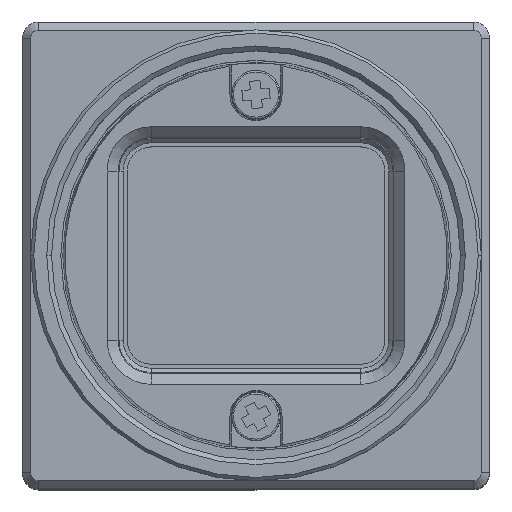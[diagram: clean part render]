
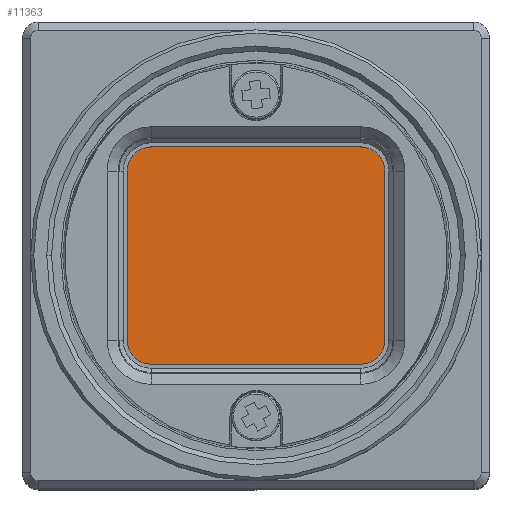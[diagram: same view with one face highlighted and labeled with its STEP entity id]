
A CAD part, top view. The second image highlights one B-rep face of the part: STEP entity #11363.
In plain terms, the highlighted planar face has unit normal (0, 0, 1).
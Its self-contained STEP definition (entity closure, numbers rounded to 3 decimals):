
#142 = AXIS2_PLACEMENT_3D ( 'NONE', #2905, #9574, #3870 ) ;
#229 = ORIENTED_EDGE ( 'NONE', *, *, #649, .T. ) ;
#414 = CIRCLE ( 'NONE', #2385, 1.5 ) ;
#426 = VERTEX_POINT ( 'NONE', #1781 ) ;
#649 = EDGE_CURVE ( 'NONE', #10071, #5170, #5285, .T. ) ;
#699 = CARTESIAN_POINT ( 'NONE',  ( 6.5, 5.25, 23.7 ) ) ;
#731 = CARTESIAN_POINT ( 'NONE',  ( 6.5, -6.75, 23.7 ) ) ;
#783 = CARTESIAN_POINT ( 'NONE',  ( 6.5, -5.25, 23.7 ) ) ;
#833 = DIRECTION ( 'NONE',  ( -1., 0., 0. ) ) ;
#875 = ORIENTED_EDGE ( 'NONE', *, *, #11059, .T. ) ;
#1062 = CARTESIAN_POINT ( 'NONE',  ( -6.5, -6.75, 23.7 ) ) ;
#1223 = ORIENTED_EDGE ( 'NONE', *, *, #5189, .T. ) ;
#1744 = DIRECTION ( 'NONE',  ( 1., 0., 0. ) ) ;
#1781 = CARTESIAN_POINT ( 'NONE',  ( 8., -5.25, 23.7 ) ) ;
#1994 = EDGE_CURVE ( 'NONE', #7260, #6638, #7615, .T. ) ;
#2385 = AXIS2_PLACEMENT_3D ( 'NONE', #783, #7459, #1744 ) ;
#2611 = DIRECTION ( 'NONE',  ( 1., 0., 0. ) ) ;
#2688 = DIRECTION ( 'NONE',  ( 0., 0., 1. ) ) ;
#2701 = AXIS2_PLACEMENT_3D ( 'NONE', #10628, #4922, #11602 ) ;
#2905 = CARTESIAN_POINT ( 'NONE',  ( -6.5, 5.25, 23.7 ) ) ;
#3057 = VERTEX_POINT ( 'NONE', #10856 ) ;
#3063 = CARTESIAN_POINT ( 'NONE',  ( -8., -5.25, 23.7 ) ) ;
#3719 = VECTOR ( 'NONE', #833, 1000. ) ;
#3870 = DIRECTION ( 'NONE',  ( 1., 0., 0. ) ) ;
#4049 = CARTESIAN_POINT ( 'NONE',  ( -6.5, 5.25, 23.7 ) ) ;
#4201 = CARTESIAN_POINT ( 'NONE',  ( -8., -5.25, 23.7 ) ) ;
#4919 = DIRECTION ( 'NONE',  ( 1., 0., 0. ) ) ;
#4922 = DIRECTION ( 'NONE',  ( 0., 0., 1. ) ) ;
#5020 = DIRECTION ( 'NONE',  ( 1., 0., 0. ) ) ;
#5116 = EDGE_CURVE ( 'NONE', #3057, #8183, #8463, .T. ) ;
#5170 = VERTEX_POINT ( 'NONE', #7701 ) ;
#5180 = DIRECTION ( 'NONE',  ( 0., -1., 0. ) ) ;
#5189 = EDGE_CURVE ( 'NONE', #8549, #10071, #5502, .T. ) ;
#5285 = LINE ( 'NONE', #731, #10053 ) ;
#5502 = CIRCLE ( 'NONE', #2701, 1.5 ) ;
#5735 = EDGE_CURVE ( 'NONE', #426, #7260, #11606, .T. ) ;
#5745 = CARTESIAN_POINT ( 'NONE',  ( 6.5, 6.75, 23.7 ) ) ;
#5824 = DIRECTION ( 'NONE',  ( 0., 1., 0. ) ) ;
#5941 = PLANE ( 'NONE',  #5977 ) ;
#5977 = AXIS2_PLACEMENT_3D ( 'NONE', #4049, #10732, #5020 ) ;
#6246 = CARTESIAN_POINT ( 'NONE',  ( -8., 5.25, 23.7 ) ) ;
#6446 = CARTESIAN_POINT ( 'NONE',  ( 8., 5.25, 23.7 ) ) ;
#6547 = CARTESIAN_POINT ( 'NONE',  ( 6.5, 6.75, 23.7 ) ) ;
#6638 = VERTEX_POINT ( 'NONE', #5745 ) ;
#6644 = ORIENTED_EDGE ( 'NONE', *, *, #7806, .T. ) ;
#7133 = VECTOR ( 'NONE', #5824, 1000. ) ;
#7260 = VERTEX_POINT ( 'NONE', #6446 ) ;
#7459 = DIRECTION ( 'NONE',  ( 0., 0., 1. ) ) ;
#7615 = CIRCLE ( 'NONE', #10661, 1.5 ) ;
#7701 = CARTESIAN_POINT ( 'NONE',  ( 6.5, -6.75, 23.7 ) ) ;
#7806 = EDGE_CURVE ( 'NONE', #8183, #8549, #12008, .T. ) ;
#8183 = VERTEX_POINT ( 'NONE', #6246 ) ;
#8463 = CIRCLE ( 'NONE', #142, 1.5 ) ;
#8499 = LINE ( 'NONE', #6547, #3719 ) ;
#8549 = VERTEX_POINT ( 'NONE', #3063 ) ;
#8710 = ORIENTED_EDGE ( 'NONE', *, *, #9536, .T. ) ;
#8838 = VECTOR ( 'NONE', #5180, 1000. ) ;
#9536 = EDGE_CURVE ( 'NONE', #6638, #3057, #8499, .T. ) ;
#9574 = DIRECTION ( 'NONE',  ( 0., 0., 1. ) ) ;
#9902 = ORIENTED_EDGE ( 'NONE', *, *, #5116, .T. ) ;
#9910 = ORIENTED_EDGE ( 'NONE', *, *, #1994, .T. ) ;
#10053 = VECTOR ( 'NONE', #4919, 1000. ) ;
#10071 = VERTEX_POINT ( 'NONE', #1062 ) ;
#10095 = EDGE_LOOP ( 'NONE', ( #10500, #9910, #8710, #9902, #6644, #1223, #229, #875 ) ) ;
#10500 = ORIENTED_EDGE ( 'NONE', *, *, #5735, .T. ) ;
#10628 = CARTESIAN_POINT ( 'NONE',  ( -6.5, -5.25, 23.7 ) ) ;
#10661 = AXIS2_PLACEMENT_3D ( 'NONE', #699, #2688, #2611 ) ;
#10732 = DIRECTION ( 'NONE',  ( 0., 0., 1. ) ) ;
#10856 = CARTESIAN_POINT ( 'NONE',  ( -6.5, 6.75, 23.7 ) ) ;
#11059 = EDGE_CURVE ( 'NONE', #5170, #426, #414, .T. ) ;
#11363 = ADVANCED_FACE ( 'NONE', ( #12362 ), #5941, .T. ) ;
#11536 = CARTESIAN_POINT ( 'NONE',  ( 8., -5.25, 23.7 ) ) ;
#11602 = DIRECTION ( 'NONE',  ( 1., 0., 0. ) ) ;
#11606 = LINE ( 'NONE', #11536, #7133 ) ;
#12008 = LINE ( 'NONE', #4201, #8838 ) ;
#12362 = FACE_OUTER_BOUND ( 'NONE', #10095, .T. ) ;
